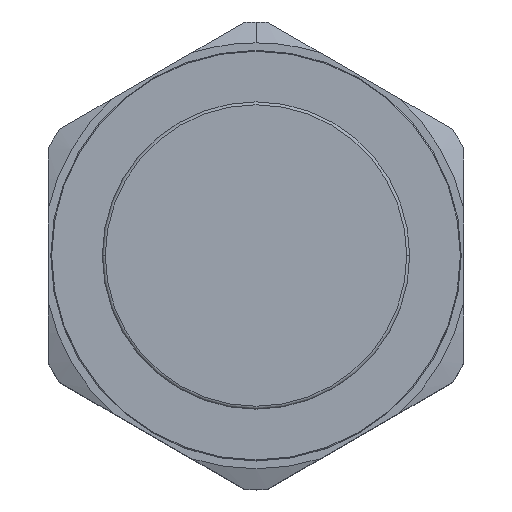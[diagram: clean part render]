
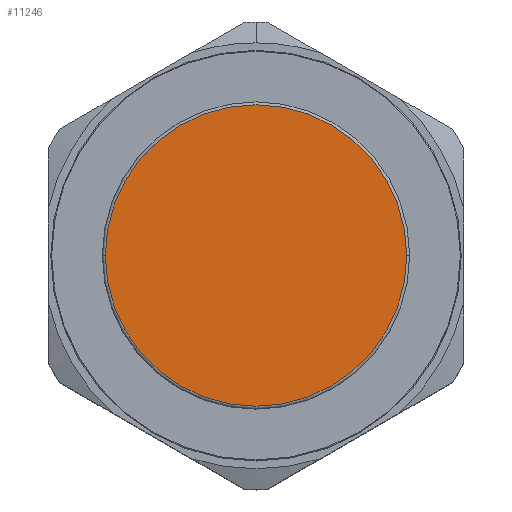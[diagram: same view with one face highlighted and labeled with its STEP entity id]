
A CAD part, top view. The second image highlights one B-rep face of the part: STEP entity #11246.
In plain terms, the highlighted planar face has unit normal (0, 0, 1).
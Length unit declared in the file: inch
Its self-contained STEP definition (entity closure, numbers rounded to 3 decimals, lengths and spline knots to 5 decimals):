
#1201 = DIRECTION ( 'NONE',  ( 0., 0., 1. ) ) ;
#1414 = CARTESIAN_POINT ( 'NONE',  ( -0.361, 0., 1.73 ) ) ;
#3669 = EDGE_CURVE ( 'NONE', #11447, #18718, #11521, .T. ) ;
#3819 = CIRCLE ( 'NONE', #3839, 0.361 ) ;
#3839 = AXIS2_PLACEMENT_3D ( 'NONE', #13764, #1201, #15878 ) ;
#5123 = AXIS2_PLACEMENT_3D ( 'NONE', #10585, #25296, #12697 ) ;
#6203 = ORIENTED_EDGE ( 'NONE', *, *, #3669, .T. ) ;
#7242 = AXIS2_PLACEMENT_3D ( 'NONE', #1414, #26939, #14348 ) ;
#7525 = ORIENTED_EDGE ( 'NONE', *, *, #20338, .T. ) ;
#8357 = CARTESIAN_POINT ( 'NONE',  ( -0.361, 0., 1.73 ) ) ;
#10585 = CARTESIAN_POINT ( 'NONE',  ( 0., 0., 1.73 ) ) ;
#11246 = ADVANCED_FACE ( 'NONE', ( #20838 ), #18201, .F. ) ;
#11447 = VERTEX_POINT ( 'NONE', #8357 ) ;
#11521 = CIRCLE ( 'NONE', #5123, 0.361 ) ;
#12621 = CARTESIAN_POINT ( 'NONE',  ( 0.361, 0., 1.73 ) ) ;
#12697 = DIRECTION ( 'NONE',  ( 1., 0., 0. ) ) ;
#13764 = CARTESIAN_POINT ( 'NONE',  ( 0., 0., 1.73 ) ) ;
#14348 = DIRECTION ( 'NONE',  ( -1., 0., 0. ) ) ;
#15878 = DIRECTION ( 'NONE',  ( 1., 0., 0. ) ) ;
#18201 = PLANE ( 'NONE',  #7242 ) ;
#18718 = VERTEX_POINT ( 'NONE', #12621 ) ;
#20338 = EDGE_CURVE ( 'NONE', #18718, #11447, #3819, .T. ) ;
#20838 = FACE_OUTER_BOUND ( 'NONE', #25533, .T. ) ;
#25296 = DIRECTION ( 'NONE',  ( 0., 0., 1. ) ) ;
#25533 = EDGE_LOOP ( 'NONE', ( #7525, #6203 ) ) ;
#26939 = DIRECTION ( 'NONE',  ( 0., 0., -1. ) ) ;
